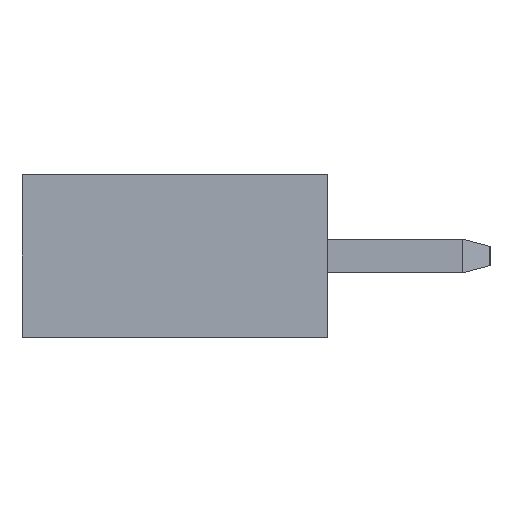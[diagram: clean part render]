
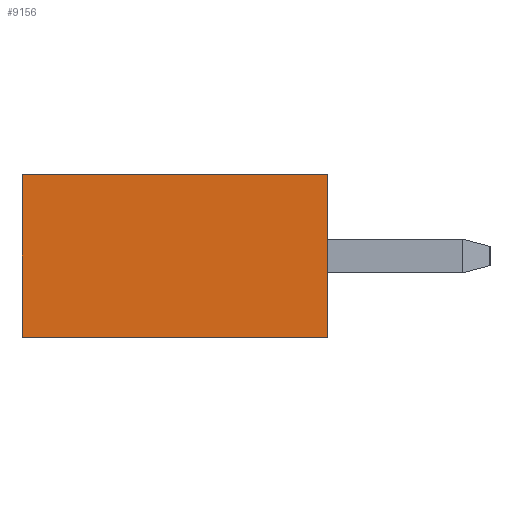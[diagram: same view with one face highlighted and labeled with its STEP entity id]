
A CAD part, left-side view. The second image highlights one B-rep face of the part: STEP entity #9156.
In plain terms, the highlighted planar face has unit normal (-1, 0, 0).
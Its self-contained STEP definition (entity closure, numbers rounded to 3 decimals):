
#1860 = CARTESIAN_POINT ( 'NONE',  ( -39.3, 4.5, -1.2 ) ) ;
#1861 = AXIS2_PLACEMENT_3D ( 'NONE', #1860, #1924, #1923 ) ;
#1862 = FACE_OUTER_BOUND ( 'NONE', #9157, .T. ) ;
#1866 = PLANE ( 'NONE',  #1861 ) ;
#1923 = DIRECTION ( 'NONE',  ( 0., 0., -1. ) ) ;
#1924 = DIRECTION ( 'NONE',  ( 1., 0., 0. ) ) ;
#7093 = EDGE_CURVE ( 'NONE', #7262, #7198, #10806, .T. ) ;
#7198 = VERTEX_POINT ( 'NONE', #10954 ) ;
#7205 = EDGE_CURVE ( 'NONE', #7262, #7206, #11000, .T. ) ;
#7206 = VERTEX_POINT ( 'NONE', #10996 ) ;
#7247 = VERTEX_POINT ( 'NONE', #11067 ) ;
#7262 = VERTEX_POINT ( 'NONE', #11052 ) ;
#7265 = EDGE_CURVE ( 'NONE', #7198, #7247, #11102, .T. ) ;
#7628 = EDGE_CURVE ( 'NONE', #7206, #7247, #11688, .T. ) ;
#9134 = ORIENTED_EDGE ( 'NONE', *, *, #7628, .T. ) ;
#9135 = ORIENTED_EDGE ( 'NONE', *, *, #7265, .F. ) ;
#9136 = ORIENTED_EDGE ( 'NONE', *, *, #7093, .F. ) ;
#9137 = ORIENTED_EDGE ( 'NONE', *, *, #7205, .T. ) ;
#9156 = ADVANCED_FACE ( 'NONE', ( #1862 ), #1866, .F. ) ;
#9157 = EDGE_LOOP ( 'NONE', ( #9134, #9135, #9136, #9137 ) ) ;
#10803 = DIRECTION ( 'NONE',  ( 0., 0., 1. ) ) ;
#10804 = VECTOR ( 'NONE', #10803, 1000. ) ;
#10805 = CARTESIAN_POINT ( 'NONE',  ( -39.3, 4.5, -1.2 ) ) ;
#10806 = LINE ( 'NONE', #10805, #10804 ) ;
#10954 = CARTESIAN_POINT ( 'NONE',  ( -39.3, 4.5, 1.2 ) ) ;
#10996 = CARTESIAN_POINT ( 'NONE',  ( -39.3, 0., -1.2 ) ) ;
#10997 = DIRECTION ( 'NONE',  ( 0., -1., 0. ) ) ;
#10998 = VECTOR ( 'NONE', #10997, 1000. ) ;
#10999 = CARTESIAN_POINT ( 'NONE',  ( -39.3, 4.5, -1.2 ) ) ;
#11000 = LINE ( 'NONE', #10999, #10998 ) ;
#11052 = CARTESIAN_POINT ( 'NONE',  ( -39.3, 4.5, -1.2 ) ) ;
#11067 = CARTESIAN_POINT ( 'NONE',  ( -39.3, 0., 1.2 ) ) ;
#11099 = DIRECTION ( 'NONE',  ( 0., -1., 0. ) ) ;
#11100 = VECTOR ( 'NONE', #11099, 1000. ) ;
#11101 = CARTESIAN_POINT ( 'NONE',  ( -39.3, 4.5, 1.2 ) ) ;
#11102 = LINE ( 'NONE', #11101, #11100 ) ;
#11686 = VECTOR ( 'NONE', #11748, 1000. ) ;
#11687 = CARTESIAN_POINT ( 'NONE',  ( -39.3, 0., -1.2 ) ) ;
#11688 = LINE ( 'NONE', #11687, #11686 ) ;
#11748 = DIRECTION ( 'NONE',  ( 0., 0., 1. ) ) ;
